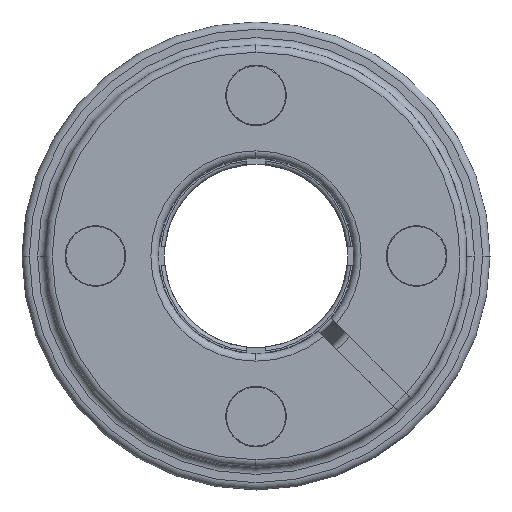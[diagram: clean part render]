
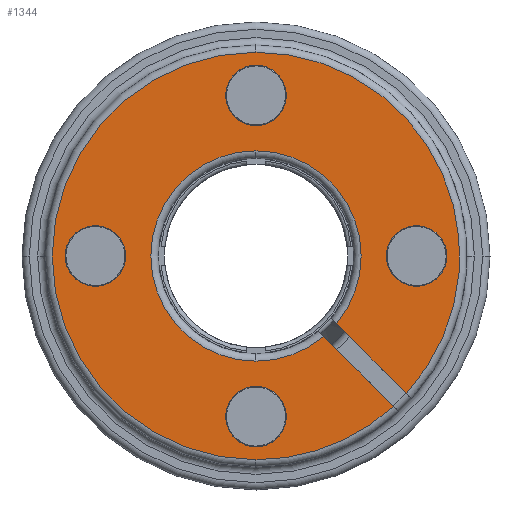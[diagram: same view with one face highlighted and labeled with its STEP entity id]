
A CAD part, left-side view. The second image highlights one B-rep face of the part: STEP entity #1344.
In plain terms, the highlighted planar face has unit normal (-1, 0, 0).
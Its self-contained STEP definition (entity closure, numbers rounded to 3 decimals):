
#1161 = EDGE_CURVE ( 'NONE', #6207, #2662, #3469, .T. ) ;
#1265 = EDGE_CURVE ( 'NONE', #2693, #6216, #5620, .T. ) ;
#1275 = VERTEX_POINT ( 'NONE', #5613 ) ;
#1276 = EDGE_CURVE ( 'NONE', #6217, #2649, #5656, .T. ) ;
#1277 = ORIENTED_EDGE ( 'NONE', *, *, #1314, .T. ) ;
#1280 = EDGE_LOOP ( 'NONE', ( #1296, #1398 ) ) ;
#1281 = ORIENTED_EDGE ( 'NONE', *, *, #6201, .T. ) ;
#1285 = EDGE_CURVE ( 'NONE', #6199, #6198, #5651, .T. ) ;
#1287 = EDGE_LOOP ( 'NONE', ( #1366, #1345, #1413, #1362, #1310, #1325, #1327, #1346 ) ) ;
#1293 = EDGE_LOOP ( 'NONE', ( #1329, #1326 ) ) ;
#1294 = ORIENTED_EDGE ( 'NONE', *, *, #1265, .T. ) ;
#1295 = EDGE_LOOP ( 'NONE', ( #1294, #1281 ) ) ;
#1296 = ORIENTED_EDGE ( 'NONE', *, *, #1161, .T. ) ;
#1310 = ORIENTED_EDGE ( 'NONE', *, *, #1415, .T. ) ;
#1314 = EDGE_CURVE ( 'NONE', #6218, #6229, #5650, .T. ) ;
#1324 = ORIENTED_EDGE ( 'NONE', *, *, #6187, .T. ) ;
#1325 = ORIENTED_EDGE ( 'NONE', *, *, #1356, .F. ) ;
#1326 = ORIENTED_EDGE ( 'NONE', *, *, #6221, .T. ) ;
#1327 = ORIENTED_EDGE ( 'NONE', *, *, #6682, .F. ) ;
#1328 = EDGE_LOOP ( 'NONE', ( #1277, #1324 ) ) ;
#1329 = ORIENTED_EDGE ( 'NONE', *, *, #1285, .T. ) ;
#1344 = ADVANCED_FACE ( 'NONE', ( #5741, #5746, #5745, #5735, #5742 ), #5749, .T. ) ;
#1345 = ORIENTED_EDGE ( 'NONE', *, *, #2648, .T. ) ;
#1346 = ORIENTED_EDGE ( 'NONE', *, *, #6219, .F. ) ;
#1354 = VERTEX_POINT ( 'NONE', #5772 ) ;
#1356 = EDGE_CURVE ( 'NONE', #6238, #1354, #5760, .T. ) ;
#1362 = ORIENTED_EDGE ( 'NONE', *, *, #1414, .T. ) ;
#1366 = ORIENTED_EDGE ( 'NONE', *, *, #1276, .T. ) ;
#1398 = ORIENTED_EDGE ( 'NONE', *, *, #6209, .T. ) ;
#1413 = ORIENTED_EDGE ( 'NONE', *, *, #2569, .T. ) ;
#1414 = EDGE_CURVE ( 'NONE', #2567, #1275, #5871, .T. ) ;
#1415 = EDGE_CURVE ( 'NONE', #1275, #1354, #5873, .T. ) ;
#2563 = VERTEX_POINT ( 'NONE', #4627 ) ;
#2567 = VERTEX_POINT ( 'NONE', #4555 ) ;
#2569 = EDGE_CURVE ( 'NONE', #2563, #2567, #4612, .T. ) ;
#2648 = EDGE_CURVE ( 'NONE', #2649, #2563, #4828, .T. ) ;
#2649 = VERTEX_POINT ( 'NONE', #4824 ) ;
#2662 = VERTEX_POINT ( 'NONE', #4817 ) ;
#2691 = VERTEX_POINT ( 'NONE', #4875 ) ;
#2693 = VERTEX_POINT ( 'NONE', #4579 ) ;
#3465 = DIRECTION ( 'NONE',  ( 0., 0., -1. ) ) ;
#3466 = DIRECTION ( 'NONE',  ( 1., 0., 0. ) ) ;
#3467 = CARTESIAN_POINT ( 'NONE',  ( -3.749, 9.361, 0. ) ) ;
#3469 = CIRCLE ( 'NONE', #3483, 1.65 ) ;
#3483 = AXIS2_PLACEMENT_3D ( 'NONE', #3467, #3466, #3465 ) ;
#4555 = CARTESIAN_POINT ( 'NONE',  ( -3.749, 0.611, 5.73 ) ) ;
#4579 = CARTESIAN_POINT ( 'NONE',  ( -3.749, 2.261, 8.75 ) ) ;
#4608 = DIRECTION ( 'NONE',  ( 0., 0., -1. ) ) ;
#4609 = DIRECTION ( 'NONE',  ( 1., 0., 0. ) ) ;
#4610 = CARTESIAN_POINT ( 'NONE',  ( -3.749, 0.611, 0. ) ) ;
#4611 = AXIS2_PLACEMENT_3D ( 'NONE', #4610, #4609, #4608 ) ;
#4612 = CIRCLE ( 'NONE', #4611, 5.73 ) ;
#4627 = CARTESIAN_POINT ( 'NONE',  ( -3.749, 0.611, -5.73 ) ) ;
#4817 = CARTESIAN_POINT ( 'NONE',  ( -3.749, 9.361, 1.65 ) ) ;
#4824 = CARTESIAN_POINT ( 'NONE',  ( -3.749, -3.072, -4.39 ) ) ;
#4825 = DIRECTION ( 'NONE',  ( 0., 0., -1. ) ) ;
#4826 = DIRECTION ( 'NONE',  ( 1., 0., 0. ) ) ;
#4827 = CARTESIAN_POINT ( 'NONE',  ( -3.749, 0.611, 0. ) ) ;
#4828 = CIRCLE ( 'NONE', #4841, 5.73 ) ;
#4841 = AXIS2_PLACEMENT_3D ( 'NONE', #4827, #4826, #4825 ) ;
#4875 = CARTESIAN_POINT ( 'NONE',  ( -3.749, 0.611, -11.1 ) ) ;
#5283 = CIRCLE ( 'NONE', #5289, 1.65 ) ;
#5289 = AXIS2_PLACEMENT_3D ( 'NONE', #5322, #5321, #5320 ) ;
#5299 = CIRCLE ( 'NONE', #5345, 1.65 ) ;
#5306 = CARTESIAN_POINT ( 'NONE',  ( -3.749, -8.139, 1.65 ) ) ;
#5307 = CARTESIAN_POINT ( 'NONE',  ( -3.749, -8.139, -1.65 ) ) ;
#5320 = DIRECTION ( 'NONE',  ( 0., -1., 0. ) ) ;
#5321 = DIRECTION ( 'NONE',  ( 1., 0., 0. ) ) ;
#5322 = CARTESIAN_POINT ( 'NONE',  ( -3.749, 0.611, -8.75 ) ) ;
#5324 = DIRECTION ( 'NONE',  ( 0., 0., -1. ) ) ;
#5325 = DIRECTION ( 'NONE',  ( 1., 0., 0. ) ) ;
#5326 = CARTESIAN_POINT ( 'NONE',  ( -3.749, 9.361, 0. ) ) ;
#5332 = CARTESIAN_POINT ( 'NONE',  ( -3.749, 9.361, -1.65 ) ) ;
#5339 = AXIS2_PLACEMENT_3D ( 'NONE', #5326, #5325, #5324 ) ;
#5342 = DIRECTION ( 'NONE',  ( 0., 1., 0. ) ) ;
#5343 = DIRECTION ( 'NONE',  ( 1., 0., 0. ) ) ;
#5344 = CARTESIAN_POINT ( 'NONE',  ( -3.749, 0.611, 8.75 ) ) ;
#5345 = AXIS2_PLACEMENT_3D ( 'NONE', #5344, #5343, #5342 ) ;
#5346 = CIRCLE ( 'NONE', #5339, 1.65 ) ;
#5349 = DIRECTION ( 'NONE',  ( 0., 0., -1. ) ) ;
#5350 = DIRECTION ( 'NONE',  ( 1., 0., 0. ) ) ;
#5351 = CARTESIAN_POINT ( 'NONE',  ( -3.749, 0.611, 0. ) ) ;
#5352 = AXIS2_PLACEMENT_3D ( 'NONE', #5351, #5350, #5349 ) ;
#5355 = CARTESIAN_POINT ( 'NONE',  ( -3.749, 2.261, -8.75 ) ) ;
#5356 = CARTESIAN_POINT ( 'NONE',  ( -3.749, -6.876, -8.194 ) ) ;
#5360 = CARTESIAN_POINT ( 'NONE',  ( -3.749, -1.039, -8.75 ) ) ;
#5361 = CARTESIAN_POINT ( 'NONE',  ( -3.749, -1.039, 8.75 ) ) ;
#5363 = CIRCLE ( 'NONE', #5352, 11.1 ) ;
#5371 = CARTESIAN_POINT ( 'NONE',  ( -3.749, 0.611, 11.1 ) ) ;
#5373 = AXIS2_PLACEMENT_3D ( 'NONE', #5393, #5378, #5423 ) ;
#5378 = DIRECTION ( 'NONE',  ( 1., 0., 0. ) ) ;
#5389 = CIRCLE ( 'NONE', #5373, 11.1 ) ;
#5393 = CARTESIAN_POINT ( 'NONE',  ( -3.749, 0.611, 0. ) ) ;
#5395 = DIRECTION ( 'NONE',  ( 0., 0., 1. ) ) ;
#5396 = DIRECTION ( 'NONE',  ( 1., 0., 0. ) ) ;
#5397 = CARTESIAN_POINT ( 'NONE',  ( -3.749, -8.139, 0. ) ) ;
#5398 = AXIS2_PLACEMENT_3D ( 'NONE', #5397, #5396, #5395 ) ;
#5399 = CIRCLE ( 'NONE', #5398, 1.65 ) ;
#5423 = DIRECTION ( 'NONE',  ( 0., 0., -1. ) ) ;
#5609 = DIRECTION ( 'NONE',  ( 0., 1., 0. ) ) ;
#5610 = DIRECTION ( 'NONE',  ( 1., 0., 0. ) ) ;
#5611 = CARTESIAN_POINT ( 'NONE',  ( -3.749, 0.611, 8.75 ) ) ;
#5613 = CARTESIAN_POINT ( 'NONE',  ( -3.749, -3.779, -3.683 ) ) ;
#5620 = CIRCLE ( 'NONE', #5623, 1.65 ) ;
#5623 = AXIS2_PLACEMENT_3D ( 'NONE', #5611, #5610, #5609 ) ;
#5646 = DIRECTION ( 'NONE',  ( 0., 0., 1. ) ) ;
#5647 = DIRECTION ( 'NONE',  ( 1., 0., 0. ) ) ;
#5648 = CARTESIAN_POINT ( 'NONE',  ( -3.749, -8.139, 0. ) ) ;
#5649 = AXIS2_PLACEMENT_3D ( 'NONE', #5648, #5647, #5646 ) ;
#5650 = CIRCLE ( 'NONE', #5686, 1.65 ) ;
#5651 = CIRCLE ( 'NONE', #5649, 1.65 ) ;
#5653 = DIRECTION ( 'NONE',  ( 0., 0.707, 0.707 ) ) ;
#5654 = VECTOR ( 'NONE', #5653, 1000. ) ;
#5655 = CARTESIAN_POINT ( 'NONE',  ( -3.749, -1.297, -2.615 ) ) ;
#5656 = LINE ( 'NONE', #5655, #5654 ) ;
#5686 = AXIS2_PLACEMENT_3D ( 'NONE', #5715, #5714, #5713 ) ;
#5713 = DIRECTION ( 'NONE',  ( 0., -1., 0. ) ) ;
#5714 = DIRECTION ( 'NONE',  ( 1., 0., 0. ) ) ;
#5715 = CARTESIAN_POINT ( 'NONE',  ( -3.749, 0.611, -8.75 ) ) ;
#5728 = DIRECTION ( 'NONE',  ( 0., 0., 1. ) ) ;
#5729 = DIRECTION ( 'NONE',  ( -1., 0., 0. ) ) ;
#5733 = AXIS2_PLACEMENT_3D ( 'NONE', #5740, #5729, #5728 ) ;
#5735 = FACE_BOUND ( 'NONE', #1295, .T. ) ;
#5740 = CARTESIAN_POINT ( 'NONE',  ( -3.749, 11.711, 0. ) ) ;
#5741 = FACE_OUTER_BOUND ( 'NONE', #1287, .T. ) ;
#5742 = FACE_BOUND ( 'NONE', #1280, .T. ) ;
#5745 = FACE_BOUND ( 'NONE', #1293, .T. ) ;
#5746 = FACE_BOUND ( 'NONE', #1328, .T. ) ;
#5749 = PLANE ( 'NONE',  #5733 ) ;
#5757 = DIRECTION ( 'NONE',  ( 0., 0., -1. ) ) ;
#5758 = DIRECTION ( 'NONE',  ( 1., 0., 0. ) ) ;
#5759 = CARTESIAN_POINT ( 'NONE',  ( -3.749, 0.611, 0. ) ) ;
#5760 = CIRCLE ( 'NONE', #5769, 11.1 ) ;
#5769 = AXIS2_PLACEMENT_3D ( 'NONE', #5759, #5758, #5757 ) ;
#5772 = CARTESIAN_POINT ( 'NONE',  ( -3.749, -7.583, -7.487 ) ) ;
#5864 = DIRECTION ( 'NONE',  ( 0., -0.707, -0.707 ) ) ;
#5865 = VECTOR ( 'NONE', #5864, 1000. ) ;
#5866 = CARTESIAN_POINT ( 'NONE',  ( -3.749, -2.004, -1.908 ) ) ;
#5867 = DIRECTION ( 'NONE',  ( 0., 0., -1. ) ) ;
#5868 = DIRECTION ( 'NONE',  ( 1., 0., 0. ) ) ;
#5869 = CARTESIAN_POINT ( 'NONE',  ( -3.749, 0.611, 0. ) ) ;
#5870 = AXIS2_PLACEMENT_3D ( 'NONE', #5869, #5868, #5867 ) ;
#5871 = CIRCLE ( 'NONE', #5870, 5.73 ) ;
#5873 = LINE ( 'NONE', #5866, #5865 ) ;
#6187 = EDGE_CURVE ( 'NONE', #6229, #6218, #5283, .T. ) ;
#6198 = VERTEX_POINT ( 'NONE', #5307 ) ;
#6199 = VERTEX_POINT ( 'NONE', #5306 ) ;
#6201 = EDGE_CURVE ( 'NONE', #6216, #2693, #5299, .T. ) ;
#6207 = VERTEX_POINT ( 'NONE', #5332 ) ;
#6209 = EDGE_CURVE ( 'NONE', #2662, #6207, #5346, .T. ) ;
#6216 = VERTEX_POINT ( 'NONE', #5361 ) ;
#6217 = VERTEX_POINT ( 'NONE', #5356 ) ;
#6218 = VERTEX_POINT ( 'NONE', #5360 ) ;
#6219 = EDGE_CURVE ( 'NONE', #6217, #2691, #5363, .T. ) ;
#6221 = EDGE_CURVE ( 'NONE', #6198, #6199, #5399, .T. ) ;
#6229 = VERTEX_POINT ( 'NONE', #5355 ) ;
#6238 = VERTEX_POINT ( 'NONE', #5371 ) ;
#6682 = EDGE_CURVE ( 'NONE', #2691, #6238, #5389, .T. ) ;
